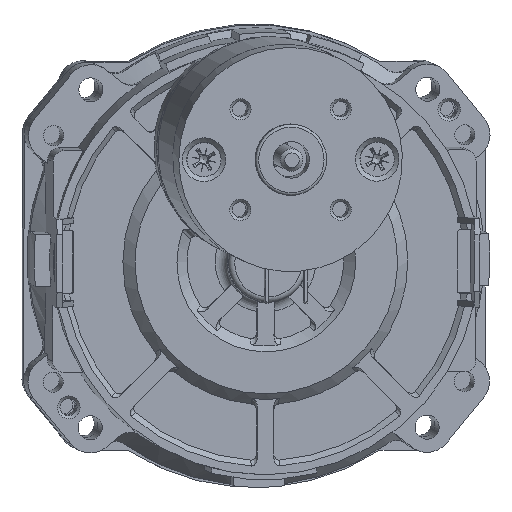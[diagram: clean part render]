
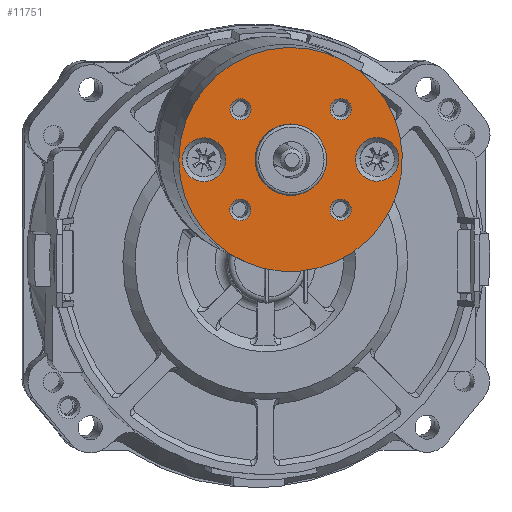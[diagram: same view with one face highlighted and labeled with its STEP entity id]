
A CAD part, top view. The second image highlights one B-rep face of the part: STEP entity #11751.
In plain terms, the highlighted planar face has unit normal (0.085, -0.045, 0.995) as drawn and (0, 0, 1) by its records, which use the part's own axes.
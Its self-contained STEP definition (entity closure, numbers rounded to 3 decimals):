
#694=FACE_BOUND('',#2500,.T.);
#695=FACE_BOUND('',#2501,.T.);
#696=FACE_BOUND('',#2502,.T.);
#697=FACE_BOUND('',#2503,.T.);
#698=FACE_BOUND('',#2504,.T.);
#699=FACE_BOUND('',#2505,.T.);
#700=FACE_BOUND('',#2506,.T.);
#1623=FACE_OUTER_BOUND('',#2499,.T.);
#2499=EDGE_LOOP('',(#10461));
#2500=EDGE_LOOP('',(#10462));
#2501=EDGE_LOOP('',(#10463));
#2502=EDGE_LOOP('',(#10464));
#2503=EDGE_LOOP('',(#10465));
#2504=EDGE_LOOP('',(#10466));
#2505=EDGE_LOOP('',(#10467));
#2506=EDGE_LOOP('',(#10468));
#4598=CIRCLE('',#12972,3.9);
#4601=CIRCLE('',#12977,3.9);
#4605=CIRCLE('',#12983,1.9);
#4606=CIRCLE('',#12985,20.);
#4607=CIRCLE('',#12986,1.9);
#4608=CIRCLE('',#12987,1.9);
#4609=CIRCLE('',#12988,6.35);
#4610=CIRCLE('',#12989,1.9);
#5708=VERTEX_POINT('',#21824);
#5711=VERTEX_POINT('',#21832);
#5715=VERTEX_POINT('',#21842);
#5716=VERTEX_POINT('',#21845);
#5717=VERTEX_POINT('',#21847);
#5718=VERTEX_POINT('',#21849);
#5719=VERTEX_POINT('',#21851);
#5720=VERTEX_POINT('',#21853);
#7320=EDGE_CURVE('',#5708,#5708,#4598,.T.);
#7323=EDGE_CURVE('',#5711,#5711,#4601,.T.);
#7327=EDGE_CURVE('',#5715,#5715,#4605,.T.);
#7328=EDGE_CURVE('',#5716,#5716,#4606,.T.);
#7329=EDGE_CURVE('',#5717,#5717,#4607,.T.);
#7330=EDGE_CURVE('',#5718,#5718,#4608,.T.);
#7331=EDGE_CURVE('',#5719,#5719,#4609,.T.);
#7332=EDGE_CURVE('',#5720,#5720,#4610,.T.);
#10461=ORIENTED_EDGE('',*,*,#7328,.F.);
#10462=ORIENTED_EDGE('',*,*,#7320,.T.);
#10463=ORIENTED_EDGE('',*,*,#7323,.T.);
#10464=ORIENTED_EDGE('',*,*,#7329,.F.);
#10465=ORIENTED_EDGE('',*,*,#7330,.F.);
#10466=ORIENTED_EDGE('',*,*,#7331,.T.);
#10467=ORIENTED_EDGE('',*,*,#7332,.F.);
#10468=ORIENTED_EDGE('',*,*,#7327,.F.);
#11111=PLANE('',#12984);
#11751=ADVANCED_FACE('',(#1623,#694,#695,#696,#697,#698,#699,#700),#11111,
 .F.);
#12972=AXIS2_PLACEMENT_3D('',#21825,#16096,#16097);
#12977=AXIS2_PLACEMENT_3D('',#21833,#16106,#16107);
#12983=AXIS2_PLACEMENT_3D('',#21843,#16118,#16119);
#12984=AXIS2_PLACEMENT_3D('',#21844,#16120,#16121);
#12985=AXIS2_PLACEMENT_3D('',#21846,#16122,#16123);
#12986=AXIS2_PLACEMENT_3D('',#21848,#16124,#16125);
#12987=AXIS2_PLACEMENT_3D('',#21850,#16126,#16127);
#12988=AXIS2_PLACEMENT_3D('',#21852,#16128,#16129);
#12989=AXIS2_PLACEMENT_3D('',#21854,#16130,#16131);
#16096=DIRECTION('center_axis',(0.,0.,-1.));
#16097=DIRECTION('ref_axis',(-1.,0.,0.));
#16106=DIRECTION('center_axis',(0.,0.,-1.));
#16107=DIRECTION('ref_axis',(1.,0.,0.));
#16118=DIRECTION('center_axis',(0.,0.,1.));
#16119=DIRECTION('ref_axis',(0.,-1.,0.));
#16120=DIRECTION('center_axis',(0.,0.,-1.));
#16121=DIRECTION('ref_axis',(-1.,0.,0.));
#16122=DIRECTION('center_axis',(0.,0.,-1.));
#16123=DIRECTION('ref_axis',(-1.,0.,0.));
#16124=DIRECTION('center_axis',(0.,0.,1.));
#16125=DIRECTION('ref_axis',(1.,0.,0.));
#16126=DIRECTION('center_axis',(0.,0.,1.));
#16127=DIRECTION('ref_axis',(-1.,0.,0.));
#16128=DIRECTION('center_axis',(0.,0.,-1.));
#16129=DIRECTION('ref_axis',(-1.,0.,0.));
#16130=DIRECTION('center_axis',(0.,0.,1.));
#16131=DIRECTION('ref_axis',(0.,1.,0.));
#21824=CARTESIAN_POINT('',(-19.4,0.,12.6));
#21825=CARTESIAN_POINT('Origin',(-15.5,0.,12.6));
#21832=CARTESIAN_POINT('',(19.4,0.,12.6));
#21833=CARTESIAN_POINT('Origin',(15.5,0.,12.6));
#21842=CARTESIAN_POINT('',(-8.98,10.88,12.6));
#21843=CARTESIAN_POINT('Origin',(-8.98,8.98,12.6));
#21844=CARTESIAN_POINT('Origin',(0.,0.,12.6));
#21845=CARTESIAN_POINT('',(20.,0.,12.6));
#21846=CARTESIAN_POINT('Origin',(0.,0.,12.6));
#21847=CARTESIAN_POINT('',(-10.88,-8.98,12.6));
#21848=CARTESIAN_POINT('Origin',(-8.98,-8.98,12.6));
#21849=CARTESIAN_POINT('',(10.88,8.98,12.6));
#21850=CARTESIAN_POINT('Origin',(8.98,8.98,12.6));
#21851=CARTESIAN_POINT('',(6.35,0.,12.6));
#21852=CARTESIAN_POINT('Origin',(0.,0.,12.6));
#21853=CARTESIAN_POINT('',(8.98,-10.88,12.6));
#21854=CARTESIAN_POINT('Origin',(8.98,-8.98,12.6));
